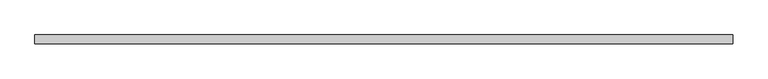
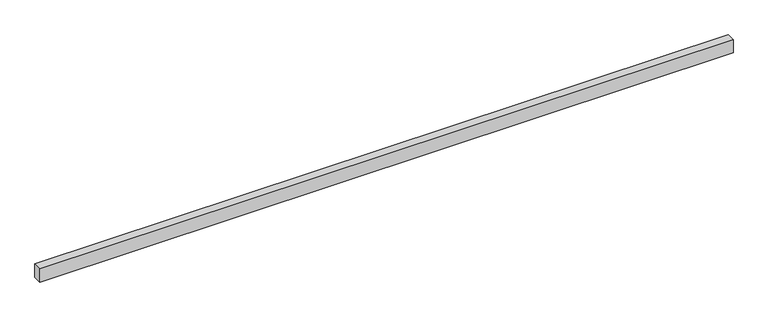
"""IFC4 building model written with IfcOpenShell, lengths in millimetres: proxy geometry, Кабель-каналы_магистральные_цвет-белый : Кабель-канал магистральный 40х25 белый."""

from ifc_helpers import new_model, si_unit, origin, origin_with_axes, place, context, project, spatial, polyline, outline, extrude, source, transform, mapped, element, save


def generic_models_2898697c(model_context):
    return source(origin(), model_context, "Body", "SweptSolid", [
        extrude(outline(polyline([(2000.0, -25.0), (0.0, -25.0), (0.0, 0.0), (2000.0, 0.0), (2000.0, -25.0)])), origin_with_axes(), (0.0, 0.0, 1.0), 40.0),
    ])


if __name__ == "__main__":
    model = new_model("IFC4")
    model_context = context("Model", 3, world=origin())
    ifc_project = project(units=[si_unit("LENGTHUNIT", "METRE", prefix="MILLI")], contexts=[model_context])
    site = spatial("IfcSite", under=ifc_project)
    building = spatial("IfcBuilding", under=site)
    placement = place(None, origin())
    generic_models_shape = generic_models_2898697c(model_context)
    element("IfcBuildingElementProxy", 1, Name="Кабель-каналы_магистральные_цвет-белый : Кабель-канал магистральный 40х25 белый", ObjectType="Кабель-каналы_магистральные_цвет-белый : Кабель-канал магистральный 40х25 белый", at=placement, inside=building, context=model_context, shape_type="MappedRepresentation", body=[
        mapped(generic_models_shape, transform((0.0, 0.0, 0.0), x_axis=(1.0, 0.0, 0.0), y_axis=(0.0, 1.0, 0.0), z_axis=(0.0, 0.0, 1.0))),
    ])
    save(model, "model.ifc")
